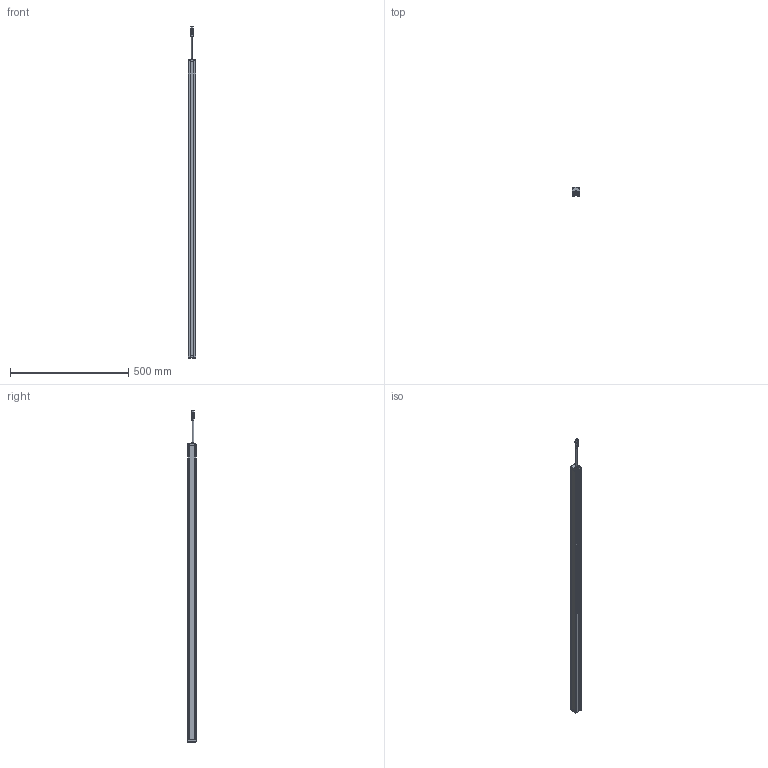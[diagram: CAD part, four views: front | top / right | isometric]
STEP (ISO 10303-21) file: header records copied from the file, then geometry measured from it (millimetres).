
FILE_DESCRIPTION((''),'2;1');
FILE_NAME('CT6-0232_ASM','2026-03-31T13:36:43',('Administrator'),(''),'CREO PARAMETRIC BY PTC INC, 2016510','CREO PARAMETRIC BY PTC INC, 2016510','');
FILE_SCHEMA(('AUTOMOTIVE_DESIGN { 1 0 10303 214 1 1 1 1 }'));
Length unit declared in the file: inch
Products named in the file (17): WK; XDG-V1_1; 000_1_1_1_1_1_1_1_1; PRT0005_1; PRT0006_1; PRT0007_1; PRT0008_1; ASM0002_ASM_1_ASM; XDG_ASM; SDG-V1_1_1; ST3-12_2_1_2_1_1_1_1_1_1_1; PRT0002_1; PRT0003_1; PRT0004_1; ASM0001_ASM_1_ASM; SDG_ASM; CT6-0232_ASM
Assembly tree (16 placements, depth 4):
  CT6-0232_ASM
    WK
    XDG_ASM
      ASM0002_ASM_1_ASM
        XDG-V1_1
        000_1_1_1_1_1_1_1_1
        PRT0005_1
        PRT0006_1
        PRT0007_1
        PRT0008_1
    SDG_ASM
      ASM0001_ASM_1_ASM
        SDG-V1_1_1
        ST3-12_2_1_2_1_1_1_1_1_1_1
        PRT0002_1
        PRT0003_1
        PRT0004_1
Bounding box: 33 x 38 x 1401.9 mm (x, y, z)
Volume: 1363304.2 mm3; surface area: 275960.6 mm2
Topology: 12 solids, 12 shells, 827 faces, 2228 edges, 1420 vertices
Faces by surface type: plane 392, cylinder 235, extrusion 88, sphere 40, torus 36, cone 28, bspline 8
Entity records: 34513 total; most frequent: CARTESIAN_POINT 6422, ORIENTED_EDGE 4352, DIRECTION 4188, PRESENTATION_STYLE_ASSIGNMENT 2189, STYLED_ITEM 2188, CURVE_STYLE 2176, EDGE_CURVE 2176, AXIS2_PLACEMENT_3D 1445
